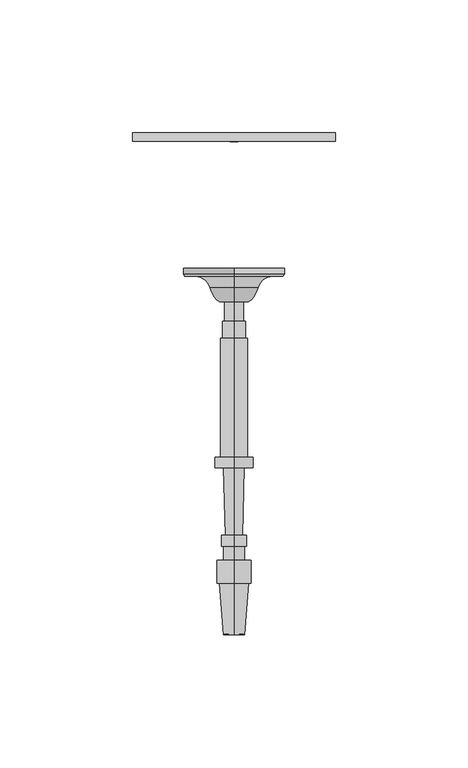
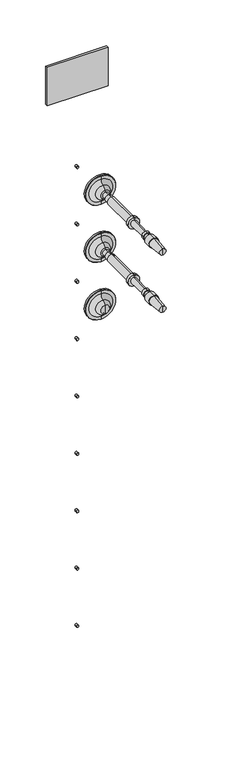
"""IFC4 building model written with IfcOpenShell, lengths in millimetres: railing geometry, RAILEASY CABLE RAILING CORNER TENSIONERS STAIR."""

from ifc_helpers import new_model, si_unit, point, frame, frame_2d, origin, place, context, project, spatial, polyline, circle_curve, ellipse_curve, trimmed, segment, composite_curve, outline, extrude, source, transform, mapped, element, save
from ifc_brep_helpers import plane_surface, cylinder_surface, revolved_surface, advanced_brep


def railing_03ae49d9(model_context):
    return source(origin(), model_context, "Body", "SolidModel", [
        extrude(outline(polyline([(4059.3568095, 20314.624604), (4135.5568095, 20314.624604), (4135.5568095, 20311.449604), (4059.3568095, 20311.449604), (4059.3568095, 20314.624604)])), frame((0.0, 0.0, 33390.9789063), z_axis=(0.0, 0.0, 1.0), x_axis=(1.0, 0.0, 0.0)), (0.0, 0.0, 1.0), 50.8),
        extrude(outline(composite_curve([segment(trimmed(circle_curve(frame_2d((33295.7289062, 4097.4568095)), 1.5379197), [point((33295.7289062, 4098.9947293))], [point((33295.7289062, 4095.9188898))], False, "CARTESIAN"), True, "CONTINUOUS"), segment(trimmed(circle_curve(frame_2d((33295.7289062, 4097.4568095)), 1.5379197), [point((33295.7289062, 4095.9188898))], [point((33295.7289062, 4098.9947293))], False, "CARTESIAN"), True, "CONTINUOUS")], self_intersect=False)), frame((0.0, 20311.449604, 0.0), z_axis=(0.0, 1.0, 0.0), x_axis=(0.0, 0.0, 1.0)), (0.0, 0.0, 1.0), 3.175),
        extrude(outline(composite_curve([segment(trimmed(circle_curve(frame_2d((33219.5289063, 4097.4568095)), 1.5379197), [point((33219.5289063, 4098.9947293))], [point((33219.5289063, 4095.9188898))], False, "CARTESIAN"), True, "CONTINUOUS"), segment(trimmed(circle_curve(frame_2d((33219.5289063, 4097.4568095)), 1.5379197), [point((33219.5289063, 4095.9188898))], [point((33219.5289063, 4098.9947293))], False, "CARTESIAN"), True, "CONTINUOUS")], self_intersect=False)), frame((0.0, 20311.449604, 0.0), z_axis=(0.0, 1.0, 0.0), x_axis=(0.0, 0.0, 1.0)), (0.0, 0.0, 1.0), 3.175),
        extrude(outline(composite_curve([segment(trimmed(circle_curve(frame_2d((33143.3289062, 4097.4568095)), 1.5379197), [point((33143.3289062, 4098.9947293))], [point((33143.3289062, 4095.9188898))], False, "CARTESIAN"), True, "CONTINUOUS"), segment(trimmed(circle_curve(frame_2d((33143.3289062, 4097.4568095)), 1.5379197), [point((33143.3289062, 4095.9188898))], [point((33143.3289062, 4098.9947293))], False, "CARTESIAN"), True, "CONTINUOUS")], self_intersect=False)), frame((0.0, 20311.449604, 0.0), z_axis=(0.0, 1.0, 0.0), x_axis=(0.0, 0.0, 1.0)), (0.0, 0.0, 1.0), 3.175),
        extrude(outline(composite_curve([segment(trimmed(circle_curve(frame_2d((33067.1289062, 4097.4568095)), 1.5379197), [point((33067.1289062, 4098.9947293))], [point((33067.1289062, 4095.9188898))], False, "CARTESIAN"), True, "CONTINUOUS"), segment(trimmed(circle_curve(frame_2d((33067.1289062, 4097.4568095)), 1.5379197), [point((33067.1289062, 4095.9188898))], [point((33067.1289062, 4098.9947293))], False, "CARTESIAN"), True, "CONTINUOUS")], self_intersect=False)), frame((0.0, 20311.449604, 0.0), z_axis=(0.0, 1.0, 0.0), x_axis=(0.0, 0.0, 1.0)), (0.0, 0.0, 1.0), 3.175),
        extrude(outline(composite_curve([segment(trimmed(circle_curve(frame_2d((32990.9289062, 4097.4568095)), 1.5379197), [point((32990.9289062, 4098.9947293))], [point((32990.9289062, 4095.9188898))], False, "CARTESIAN"), True, "CONTINUOUS"), segment(trimmed(circle_curve(frame_2d((32990.9289062, 4097.4568095)), 1.5379197), [point((32990.9289062, 4095.9188898))], [point((32990.9289062, 4098.9947293))], False, "CARTESIAN"), True, "CONTINUOUS")], self_intersect=False)), frame((0.0, 20311.449604, 0.0), z_axis=(0.0, 1.0, 0.0), x_axis=(0.0, 0.0, 1.0)), (0.0, 0.0, 1.0), 3.175),
        extrude(outline(composite_curve([segment(trimmed(circle_curve(frame_2d((32914.7289062, 4097.4568095)), 1.5379197), [point((32914.7289062, 4098.9947293))], [point((32914.7289062, 4095.9188898))], False, "CARTESIAN"), True, "CONTINUOUS"), segment(trimmed(circle_curve(frame_2d((32914.7289062, 4097.4568095)), 1.5379197), [point((32914.7289062, 4095.9188898))], [point((32914.7289062, 4098.9947293))], False, "CARTESIAN"), True, "CONTINUOUS")], self_intersect=False)), frame((0.0, 20311.449604, 0.0), z_axis=(0.0, 1.0, 0.0), x_axis=(0.0, 0.0, 1.0)), (0.0, 0.0, 1.0), 3.175),
        extrude(outline(composite_curve([segment(trimmed(circle_curve(frame_2d((32838.5289063, 4097.4568095)), 1.5379197), [point((32838.5289063, 4098.9947293))], [point((32838.5289063, 4095.9188898))], False, "CARTESIAN"), True, "CONTINUOUS"), segment(trimmed(circle_curve(frame_2d((32838.5289063, 4097.4568095)), 1.5379197), [point((32838.5289063, 4095.9188898))], [point((32838.5289063, 4098.9947293))], False, "CARTESIAN"), True, "CONTINUOUS")], self_intersect=False)), frame((0.0, 20311.449604, 0.0), z_axis=(0.0, 1.0, 0.0), x_axis=(0.0, 0.0, 1.0)), (0.0, 0.0, 1.0), 3.175),
        extrude(outline(composite_curve([segment(trimmed(circle_curve(frame_2d((32762.3289062, 4097.4568095)), 1.5379197), [point((32762.3289062, 4098.9947293))], [point((32762.3289062, 4095.9188898))], False, "CARTESIAN"), True, "CONTINUOUS"), segment(trimmed(circle_curve(frame_2d((32762.3289062, 4097.4568095)), 1.5379197), [point((32762.3289062, 4095.9188898))], [point((32762.3289062, 4098.9947293))], False, "CARTESIAN"), True, "CONTINUOUS")], self_intersect=False)), frame((0.0, 20311.449604, 0.0), z_axis=(0.0, 1.0, 0.0), x_axis=(0.0, 0.0, 1.0)), (0.0, 0.0, 1.0), 3.175),
        extrude(outline(composite_curve([segment(trimmed(circle_curve(frame_2d((32686.1289062, 4097.4568095)), 1.5379197), [point((32686.1289062, 4098.9947293))], [point((32686.1289062, 4095.9188898))], False, "CARTESIAN"), True, "CONTINUOUS"), segment(trimmed(circle_curve(frame_2d((32686.1289062, 4097.4568095)), 1.5379197), [point((32686.1289062, 4095.9188898))], [point((32686.1289062, 4098.9947293))], False, "CARTESIAN"), True, "CONTINUOUS")], self_intersect=False)), frame((0.0, 20311.449604, 0.0), z_axis=(0.0, 1.0, 0.0), x_axis=(0.0, 0.0, 1.0)), (0.0, 0.0, 1.0), 3.175),
        advanced_brep(
        [(4097.4568095, 20263.8073048, 33296.0001631), (4097.4568095, 20263.8073048, 33276.9501631), (4097.4568095, 20263.8073048, 33315.0501631), (4097.4568095, 20251.1146682, 33290.4769785), (4097.4568095, 20251.1146682, 33296.0001631), (4097.4568095, 20251.1146682, 33301.5233478), (4097.4568095, 20256.3907646, 33286.8720381), (4097.4568095, 20256.3907646, 33305.1282881), (4097.4568095, 20260.7563896, 33281.2458254), (4097.4568095, 20260.7563896, 33310.7545009), (4097.4568095, 20260.7563896, 33277.3762941), (4097.4568095, 20260.7563896, 33314.6240321), (4097.4568095, 20261.4260548, 33276.9501631), (4097.4568095, 20261.4260548, 33315.0501631)],
        [
            (0, 1),
            (1, 2, circle_curve(frame((4097.4568095, 20263.8073048, 33296.0001631), z_axis=(0.0, 1.0, 0.0), x_axis=(0.0, 0.0, 1.0)), 19.05)),
            (2, 0),
            (2, 1, circle_curve(frame((4097.4568095, 20263.8073048, 33296.0001631), z_axis=(0.0, 1.0, 0.0), x_axis=(0.0, 0.0, 1.0)), 19.05)),
            (3, 4),
            (4, 5),
            (5, 3, circle_curve(frame((4097.4568095, 20251.1146682, 33296.0001631), z_axis=(0.0, -1.0, 0.0), x_axis=(0.0, 0.0, 1.0)), 5.5231846)),
            (3, 5, circle_curve(frame((4097.4568095, 20251.1146682, 33296.0001631), z_axis=(0.0, -1.0, 0.0), x_axis=(0.0, 0.0, 1.0)), 5.5231846)),
            (6, 3, circle_curve(frame((4097.4568095, 20258.7151733, 33295.9374304), z_axis=(-1.0, 0.0, 0.0), x_axis=(0.0, -1.0, 0.0)), 9.3586438)),
            (5, 7, circle_curve(frame((4097.4568095, 20258.7151733, 33296.0628958), z_axis=(-1.0, 0.0, 0.0), x_axis=(0.0, -1.0, 0.0)), 9.3586438)),
            (7, 6, circle_curve(frame((4097.4568095, 20256.3907646, 33296.0001631), z_axis=(0.0, -1.0, 0.0), x_axis=(0.0, 0.0, 1.0)), 9.128125)),
            (6, 7, circle_curve(frame((4097.4568095, 20256.3907646, 33296.0001631), z_axis=(0.0, -1.0, 0.0), x_axis=(0.0, 0.0, 1.0)), 9.128125)),
            (8, 6, circle_curve(frame((4097.4568095, 20254.9481776, 33281.2458254), z_axis=(1.0, 0.0, 0.0), x_axis=(0.0, -1.0, 0.0)), 5.8082121)),
            (7, 9, circle_curve(frame((4097.4568095, 20254.9481776, 33310.7545009), z_axis=(1.0, 0.0, 0.0), x_axis=(0.0, -1.0, 0.0)), 5.8082121)),
            (9, 8, circle_curve(frame((4097.4568095, 20260.7563896, 33296.0001631), z_axis=(0.0, -1.0, 0.0), x_axis=(0.0, 0.0, 1.0)), 14.7543378)),
            (8, 9, circle_curve(frame((4097.4568095, 20260.7563896, 33296.0001631), z_axis=(0.0, -1.0, 0.0), x_axis=(0.0, 0.0, 1.0)), 14.7543378)),
            (10, 8),
            (9, 11),
            (11, 10, circle_curve(frame((4097.4568095, 20260.7563896, 33296.0001631), z_axis=(0.0, -1.0, 0.0), x_axis=(0.0, 0.0, 1.0)), 18.623869)),
            (10, 11, circle_curve(frame((4097.4568095, 20260.7563896, 33296.0001631), z_axis=(0.0, -1.0, 0.0), x_axis=(0.0, 0.0, 1.0)), 18.623869)),
            (12, 10),
            (11, 13),
            (13, 12, circle_curve(frame((4097.4568095, 20261.4260548, 33296.0001631), z_axis=(0.0, -1.0, 0.0), x_axis=(0.0, 0.0, 1.0)), 19.05)),
            (12, 13, circle_curve(frame((4097.4568095, 20261.4260548, 33296.0001631), z_axis=(0.0, -1.0, 0.0), x_axis=(0.0, 0.0, 1.0)), 19.05)),
            (1, 12),
            (13, 2),
        ],
        [
            plane_surface(frame((4097.4568095, 20263.8073048, 33296.0001631), z_axis=(0.0, 1.0, 0.0), x_axis=(0.0, 0.0, 1.0))),
            plane_surface(frame((4097.4568095, 20251.1146682, 33296.0001631), z_axis=(0.0, -1.0, 0.0), x_axis=(0.0, 0.0, 1.0))),
            revolved_surface(trimmed(ellipse_curve(frame((4097.4568095, 20258.7151733, 33296.0628958), z_axis=(-1.0, 0.0, 0.0), x_axis=(0.0, -1.0, 0.0)), 9.3586438, 9.3586438), [point((4097.4568095, 20251.1146682, 33301.5233478))], [point((4097.4568095, 20256.3907646, 33305.1282881))], True, "CARTESIAN"), (4097.4568095, 20263.8073048, 33296.0001631), (0.0, 1.0, 0.0)),
            revolved_surface(trimmed(ellipse_curve(frame((4097.4568095, 20254.9481776, 33310.7545009), z_axis=(1.0, 0.0, 0.0), x_axis=(0.0, -1.0, 0.0)), 5.8082121, 5.8082121), [point((4097.4568095, 20256.3907646, 33305.1282881))], [point((4097.4568095, 20260.7563896, 33310.7545009))], True, "CARTESIAN"), (4097.4568095, 20263.8073048, 33296.0001631), (0.0, 1.0, 0.0)),
            plane_surface(frame((4097.4568095, 20260.7563896, 33296.0001631), z_axis=(0.0, -1.0, 0.0), x_axis=(0.0, 0.0, 1.0))),
            revolved_surface(polyline([(4097.4568095, 20260.7563896, 33314.6240321), (4097.4568095, 20261.4260548, 33315.0501631)]), (4097.4568095, 20263.8073048, 33296.0001631), (0.0, 1.0, 0.0)),
            cylinder_surface(frame((4097.4568095, 20263.8073048, 33296.0001631), z_axis=(0.0, 1.0, 0.0), x_axis=(0.0, 0.0, 1.0)), 19.05),
        ],
        [
            (0, [[1, 2, 3]]),
            (0, [[-3, 4, -1]]),
            (1, [[5, 6, 7]]),
            (1, [[-6, -5, 8]]),
            (2, [[9, -7, 10, 11]]),
            (2, [[-10, -8, -9, 12]]),
            (3, [[13, -11, 14, 15]]),
            (3, [[-14, -12, -13, 16]]),
            (4, [[17, -15, 18, 19]]),
            (4, [[-18, -16, -17, 20]]),
            (5, [[21, -19, 22, 23]]),
            (5, [[-22, -20, -21, 24]]),
            (6, [[25, -23, 26, -2]]),
            (6, [[-26, -24, -25, -4]]),
        ],
    ),
        advanced_brep(
        [(4097.4568095, 20251.1146682, 33292.4282881), (4097.4568095, 20251.1146682, 33299.5720381), (4097.4568095, 20251.1146682, 33296.0001631), (4097.4568095, 20126.170779, 33296.0001631), (4097.4568095, 20125.8751146, 33300.0246235), (4097.4568095, 20125.8751146, 33291.9757028), (4097.4568095, 20145.2184786, 33301.445719), (4097.4568095, 20145.2184786, 33290.5546072), (4097.4568095, 20145.2184786, 33302.3386877), (4097.4568095, 20145.2184786, 33289.6616385), (4097.4568095, 20153.8505098, 33302.3386877), (4097.4568095, 20153.8505098, 33289.6616385), (4097.4568095, 20153.8505098, 33299.9574377), (4097.4568095, 20153.8505098, 33292.0428885), (4097.4568095, 20159.2083223, 33299.9574377), (4097.4568095, 20159.2083223, 33292.0428885), (4097.4568095, 20159.2083223, 33300.7511877), (4097.4568095, 20159.2083223, 33291.2491385), (4097.4568095, 20163.2762911, 33300.7511877), (4097.4568095, 20163.2762911, 33291.2491385), (4097.4568095, 20163.3203782, 33299.1643), (4097.4568095, 20163.3203782, 33292.8360262), (4097.4568095, 20188.7105814, 33299.8696944), (4097.4568095, 20188.7105814, 33292.1306319), (4097.4568095, 20188.7105814, 33303.1439131), (4097.4568095, 20188.7105814, 33288.8564131), (4097.4568095, 20192.6793314, 33303.1439131), (4097.4568095, 20192.6793314, 33288.8564131), (4097.4568095, 20192.6793314, 33301.1595381), (4097.4568095, 20192.6793314, 33290.8407881), (4097.4568095, 20237.4269877, 33301.1595381), (4097.4568095, 20237.4269877, 33290.8407881), (4097.4568095, 20237.4269877, 33300.3657881), (4097.4568095, 20237.4269877, 33291.6345381), (4097.4568095, 20243.7769877, 33300.3657881), (4097.4568095, 20243.7769877, 33291.6345381), (4097.4568095, 20243.7769877, 33299.5720381), (4097.4568095, 20243.7769877, 33292.4282881)],
        [
            (0, 1, circle_curve(frame((4097.4568095, 20251.1146682, 33296.0001631), z_axis=(0.0, 1.0, 0.0), x_axis=(0.0, 0.0, 1.0000000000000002)), 3.571875)),
            (1, 2),
            (2, 0),
            (1, 0, circle_curve(frame((4097.4568095, 20251.1146682, 33296.0001631), z_axis=(0.0, 1.0, 0.0), x_axis=(0.0, 0.0, 1.0000000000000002)), 3.571875)),
            (3, 4),
            (4, 5, circle_curve(frame((4097.4568095, 20125.8751146, 33296.0001631), z_axis=(0.0, -1.0, 0.0), x_axis=(0.0, 0.0, 1.0000000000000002)), 4.0244604)),
            (5, 3),
            (5, 4, circle_curve(frame((4097.4568095, 20125.8751146, 33296.0001631), z_axis=(0.0, -1.0, 0.0), x_axis=(0.0, 0.0, 1.0000000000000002)), 4.0244604)),
            (4, 6),
            (6, 7, circle_curve(frame((4097.4568095, 20145.2184786, 33296.0001631), z_axis=(0.0, -1.0, 0.0), x_axis=(0.0, 0.0, 1.0000000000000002)), 5.4455559)),
            (7, 5),
            (7, 6, circle_curve(frame((4097.4568095, 20145.2184786, 33296.0001631), z_axis=(0.0, -1.0, 0.0), x_axis=(0.0, 0.0, 1.0000000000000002)), 5.4455559)),
            (6, 8),
            (8, 9, circle_curve(frame((4097.4568095, 20145.2184786, 33296.0001631), z_axis=(0.0, -1.0, 0.0), x_axis=(0.0, 0.0, 1.0000000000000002)), 6.3385246)),
            (9, 7),
            (9, 8, circle_curve(frame((4097.4568095, 20145.2184786, 33296.0001631), z_axis=(0.0, -1.0, 0.0), x_axis=(0.0, 0.0, 1.0000000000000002)), 6.3385246)),
            (8, 10),
            (10, 11, circle_curve(frame((4097.4568095, 20153.8505098, 33296.0001631), z_axis=(0.0, -1.0, 0.0), x_axis=(0.0, 0.0, 1.0000000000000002)), 6.3385246)),
            (11, 9),
            (11, 10, circle_curve(frame((4097.4568095, 20153.8505098, 33296.0001631), z_axis=(0.0, -1.0, 0.0), x_axis=(0.0, 0.0, 1.0000000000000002)), 6.3385246)),
            (10, 12),
            (12, 13, circle_curve(frame((4097.4568095, 20153.8505098, 33296.0001631), z_axis=(0.0, -1.0, 0.0), x_axis=(0.0, 0.0, 1.0000000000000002)), 3.9572746)),
            (13, 11),
            (13, 12, circle_curve(frame((4097.4568095, 20153.8505098, 33296.0001631), z_axis=(0.0, -1.0, 0.0), x_axis=(0.0, 0.0, 1.0000000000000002)), 3.9572746)),
            (12, 14),
            (14, 15, circle_curve(frame((4097.4568095, 20159.2083223, 33296.0001631), z_axis=(0.0, -1.0, 0.0), x_axis=(0.0, 0.0, 1.0000000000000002)), 3.9572746)),
            (15, 13),
            (15, 14, circle_curve(frame((4097.4568095, 20159.2083223, 33296.0001631), z_axis=(0.0, -1.0, 0.0), x_axis=(0.0, 0.0, 1.0000000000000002)), 3.9572746)),
            (14, 16),
            (16, 17, circle_curve(frame((4097.4568095, 20159.2083223, 33296.0001631), z_axis=(0.0, -1.0, 0.0), x_axis=(0.0, 0.0, 1.0000000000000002)), 4.7510246)),
            (17, 15),
            (17, 16, circle_curve(frame((4097.4568095, 20159.2083223, 33296.0001631), z_axis=(0.0, -1.0, 0.0), x_axis=(0.0, 0.0, 1.0000000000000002)), 4.7510246)),
            (16, 18),
            (18, 19, circle_curve(frame((4097.4568095, 20163.2762911, 33296.0001631), z_axis=(0.0, -1.0, 0.0), x_axis=(0.0, 0.0, 1.0000000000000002)), 4.7510246)),
            (19, 17),
            (19, 18, circle_curve(frame((4097.4568095, 20163.2762911, 33296.0001631), z_axis=(0.0, -1.0, 0.0), x_axis=(0.0, 0.0, 1.0000000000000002)), 4.7510246)),
            (18, 20),
            (20, 21, circle_curve(frame((4097.4568095, 20163.3203782, 33296.0001631), z_axis=(0.0, -1.0, 0.0), x_axis=(0.0, 0.0, 1.0000000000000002)), 3.1641369)),
            (21, 19),
            (21, 20, circle_curve(frame((4097.4568095, 20163.3203782, 33296.0001631), z_axis=(0.0, -1.0, 0.0), x_axis=(0.0, 0.0, 1.0000000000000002)), 3.1641369)),
            (20, 22),
            (22, 23, circle_curve(frame((4097.4568095, 20188.7105814, 33296.0001631), z_axis=(0.0, -1.0, 0.0), x_axis=(0.0, 0.0, 1.0000000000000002)), 3.8695313)),
            (23, 21),
            (23, 22, circle_curve(frame((4097.4568095, 20188.7105814, 33296.0001631), z_axis=(0.0, -1.0, 0.0), x_axis=(0.0, 0.0, 1.0000000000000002)), 3.8695313)),
            (22, 24),
            (24, 25, circle_curve(frame((4097.4568095, 20188.7105814, 33296.0001631), z_axis=(0.0, -1.0, 0.0), x_axis=(0.0, 0.0, 1.0000000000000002)), 7.14375)),
            (25, 23),
            (25, 24, circle_curve(frame((4097.4568095, 20188.7105814, 33296.0001631), z_axis=(0.0, -1.0, 0.0), x_axis=(0.0, 0.0, 1.0000000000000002)), 7.14375)),
            (24, 26),
            (26, 27, circle_curve(frame((4097.4568095, 20192.6793314, 33296.0001631), z_axis=(0.0, -1.0, 0.0), x_axis=(0.0, 0.0, 1.0000000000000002)), 7.14375)),
            (27, 25),
            (27, 26, circle_curve(frame((4097.4568095, 20192.6793314, 33296.0001631), z_axis=(0.0, -1.0, 0.0), x_axis=(0.0, 0.0, 1.0000000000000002)), 7.14375)),
            (26, 28),
            (28, 29, circle_curve(frame((4097.4568095, 20192.6793314, 33296.0001631), z_axis=(0.0, -1.0, 0.0), x_axis=(0.0, 0.0, 1.0000000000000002)), 5.159375)),
            (29, 27),
            (29, 28, circle_curve(frame((4097.4568095, 20192.6793314, 33296.0001631), z_axis=(0.0, -1.0, 0.0), x_axis=(0.0, 0.0, 1.0000000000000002)), 5.159375)),
            (28, 30),
            (30, 31, circle_curve(frame((4097.4568095, 20237.4269877, 33296.0001631), z_axis=(0.0, -1.0, 0.0), x_axis=(0.0, 0.0, 1.0000000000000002)), 5.159375)),
            (31, 29),
            (31, 30, circle_curve(frame((4097.4568095, 20237.4269877, 33296.0001631), z_axis=(0.0, -1.0, 0.0), x_axis=(0.0, 0.0, 1.0000000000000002)), 5.159375)),
            (30, 32),
            (32, 33, circle_curve(frame((4097.4568095, 20237.4269877, 33296.0001631), z_axis=(0.0, -1.0, 0.0), x_axis=(0.0, 0.0, 1.0000000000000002)), 4.365625)),
            (33, 31),
            (33, 32, circle_curve(frame((4097.4568095, 20237.4269877, 33296.0001631), z_axis=(0.0, -1.0, 0.0), x_axis=(0.0, 0.0, 1.0000000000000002)), 4.365625)),
            (32, 34),
            (34, 35, circle_curve(frame((4097.4568095, 20243.7769877, 33296.0001631), z_axis=(0.0, -1.0, 0.0), x_axis=(0.0, 0.0, 1.0000000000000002)), 4.365625)),
            (35, 33),
            (35, 34, circle_curve(frame((4097.4568095, 20243.7769877, 33296.0001631), z_axis=(0.0, -1.0, 0.0), x_axis=(0.0, 0.0, 1.0000000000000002)), 4.365625)),
            (34, 36),
            (36, 37, circle_curve(frame((4097.4568095, 20243.7769877, 33296.0001631), z_axis=(0.0, -1.0, 0.0), x_axis=(0.0, 0.0, 1.0000000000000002)), 3.571875)),
            (37, 35),
            (37, 36, circle_curve(frame((4097.4568095, 20243.7769877, 33296.0001631), z_axis=(0.0, -1.0, 0.0), x_axis=(0.0, 0.0, 1.0000000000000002)), 3.571875)),
            (36, 1),
            (0, 37),
        ],
        [
            plane_surface(frame((4097.4568095, 20251.1146682, 33296.0001631), z_axis=(0.0, 1.0, 0.0), x_axis=(0.0, 0.0, 1.0))),
            revolved_surface(polyline([(4097.4568095, 20125.8751146, 33300.0246235), (4097.4568095, 20126.170779, 33296.0001631)]), (4097.4568095, 20126.170779, 33296.0001631), (0.0, -1.0, 0.0)),
            revolved_surface(polyline([(4097.4568095, 20145.2184786, 33301.445719), (4097.4568095, 20125.8751146, 33300.0246235)]), (4097.4568095, 20126.170779, 33296.0001631), (0.0, -1.0, 0.0)),
            plane_surface(frame((4097.4568095, 20145.2184786, 33296.0001631), z_axis=(0.0, -1.0, 0.0), x_axis=(0.0, 0.0, 1.0))),
            cylinder_surface(frame((4097.4568095, 20126.170779, 33296.0001631), z_axis=(0.0, -1.0, 0.0), x_axis=(0.0, 0.0, 1.0000000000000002)), 6.3385246),
            plane_surface(frame((4097.4568095, 20153.8505098, 33296.0001631), z_axis=(0.0, 1.0, 0.0), x_axis=(0.0, 0.0, 1.0))),
            cylinder_surface(frame((4097.4568095, 20126.170779, 33296.0001631), z_axis=(0.0, -1.0, 0.0), x_axis=(0.0, 0.0, 1.0000000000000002)), 3.9572746),
            plane_surface(frame((4097.4568095, 20159.2083223, 33296.0001631), z_axis=(0.0, -1.0, 0.0), x_axis=(0.0, 0.0, 1.0))),
            cylinder_surface(frame((4097.4568095, 20126.170779, 33296.0001631), z_axis=(0.0, -1.0, 0.0), x_axis=(0.0, 0.0, 1.0000000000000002)), 4.7510246),
            plane_surface(frame((4097.4568095, 20163.3203782, 33296.0001631), z_axis=(0.0, 1.0, 0.0), x_axis=(0.0, 0.0, 1.0))),
            revolved_surface(polyline([(4097.4568095, 20188.7105814, 33299.8696944), (4097.4568095, 20163.3203782, 33299.1643)]), (4097.4568095, 20126.170779, 33296.0001631), (0.0, -1.0, 0.0)),
            plane_surface(frame((4097.4568095, 20188.7105814, 33296.0001631), z_axis=(0.0, -1.0, 0.0), x_axis=(0.0, 0.0, 1.0))),
            cylinder_surface(frame((4097.4568095, 20126.170779, 33296.0001631), z_axis=(0.0, -1.0, 0.0), x_axis=(0.0, 0.0, 1.0000000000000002)), 7.14375),
            plane_surface(frame((4097.4568095, 20192.6793314, 33296.0001631), z_axis=(0.0, 1.0, 0.0), x_axis=(0.0, 0.0, 1.0))),
            cylinder_surface(frame((4097.4568095, 20126.170779, 33296.0001631), z_axis=(0.0, -1.0, 0.0), x_axis=(0.0, 0.0, 1.0000000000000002)), 5.159375),
            plane_surface(frame((4097.4568095, 20237.4269877, 33296.0001631), z_axis=(0.0, 1.0, 0.0), x_axis=(0.0, 0.0, 1.0))),
            cylinder_surface(frame((4097.4568095, 20126.170779, 33296.0001631), z_axis=(0.0, -1.0, 0.0), x_axis=(0.0, 0.0, 1.0000000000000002)), 4.365625),
            plane_surface(frame((4097.4568095, 20243.7769877, 33296.0001631), z_axis=(0.0, 1.0, 0.0), x_axis=(0.0, 0.0, 1.0))),
            cylinder_surface(frame((4097.4568095, 20126.170779, 33296.0001631), z_axis=(0.0, -1.0, 0.0), x_axis=(0.0, 0.0, 1.0000000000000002)), 3.571875),
        ],
        [
            (0, [[1, 2, 3]]),
            (0, [[4, -3, -2]]),
            (1, [[5, 6, 7]]),
            (1, [[-7, 8, -5]]),
            (2, [[-6, 9, 10, 11]]),
            (2, [[-8, -11, 12, -9]]),
            (3, [[-10, 13, 14, 15]]),
            (3, [[-12, -15, 16, -13]]),
            (4, [[-14, 17, 18, 19]]),
            (4, [[-16, -19, 20, -17]]),
            (5, [[-18, 21, 22, 23]]),
            (5, [[-20, -23, 24, -21]]),
            (6, [[-22, 25, 26, 27]]),
            (6, [[-24, -27, 28, -25]]),
            (7, [[-26, 29, 30, 31]]),
            (7, [[-28, -31, 32, -29]]),
            (8, [[-30, 33, 34, 35]]),
            (8, [[-32, -35, 36, -33]]),
            (9, [[-34, 37, 38, 39]]),
            (9, [[-36, -39, 40, -37]]),
            (10, [[-38, 41, 42, 43]]),
            (10, [[-40, -43, 44, -41]]),
            (11, [[-42, 45, 46, 47]]),
            (11, [[-44, -47, 48, -45]]),
            (12, [[-46, 49, 50, 51]]),
            (12, [[-48, -51, 52, -49]]),
            (13, [[-50, 53, 54, 55]]),
            (13, [[-52, -55, 56, -53]]),
            (14, [[-54, 57, 58, 59]]),
            (14, [[-56, -59, 60, -57]]),
            (15, [[-58, 61, 62, 63]]),
            (15, [[-60, -63, 64, -61]]),
            (16, [[-62, 65, 66, 67]]),
            (16, [[-64, -67, 68, -65]]),
            (17, [[-66, 69, 70, 71]]),
            (17, [[-68, -71, 72, -69]]),
            (18, [[-70, 73, -1, 74]]),
            (18, [[-72, -74, -4, -73]]),
        ],
    ),
        advanced_brep(
        [(4097.4568095, 20263.8073048, 33219.8001631), (4097.4568095, 20263.8073048, 33200.7501631), (4097.4568095, 20263.8073048, 33238.8501631), (4097.4568095, 20251.1146682, 33214.2769785), (4097.4568095, 20251.1146682, 33219.8001631), (4097.4568095, 20251.1146682, 33225.3233478), (4097.4568095, 20256.3907646, 33210.6720381), (4097.4568095, 20256.3907646, 33228.9282881), (4097.4568095, 20260.7563896, 33205.0458254), (4097.4568095, 20260.7563896, 33234.5545009), (4097.4568095, 20260.7563896, 33201.1762941), (4097.4568095, 20260.7563896, 33238.4240321), (4097.4568095, 20261.4260548, 33200.7501631), (4097.4568095, 20261.4260548, 33238.8501631)],
        [
            (0, 1),
            (1, 2, circle_curve(frame((4097.4568095, 20263.8073048, 33219.8001631), z_axis=(0.0, 1.0, 0.0), x_axis=(0.0, 0.0, 1.0)), 19.05)),
            (2, 0),
            (2, 1, circle_curve(frame((4097.4568095, 20263.8073048, 33219.8001631), z_axis=(0.0, 1.0, 0.0), x_axis=(0.0, 0.0, 1.0)), 19.05)),
            (3, 4),
            (4, 5),
            (5, 3, circle_curve(frame((4097.4568095, 20251.1146682, 33219.8001631), z_axis=(0.0, -1.0, 0.0), x_axis=(0.0, 0.0, 1.0)), 5.5231846)),
            (3, 5, circle_curve(frame((4097.4568095, 20251.1146682, 33219.8001631), z_axis=(0.0, -1.0, 0.0), x_axis=(0.0, 0.0, 1.0)), 5.5231846)),
            (6, 3, circle_curve(frame((4097.4568095, 20258.7151733, 33219.7374304), z_axis=(-1.0, 0.0, 0.0), x_axis=(0.0, -1.0, 0.0)), 9.3586438)),
            (5, 7, circle_curve(frame((4097.4568095, 20258.7151733, 33219.8628958), z_axis=(-1.0, 0.0, 0.0), x_axis=(0.0, -1.0, 0.0)), 9.3586438)),
            (7, 6, circle_curve(frame((4097.4568095, 20256.3907646, 33219.8001631), z_axis=(0.0, -1.0, 0.0), x_axis=(0.0, 0.0, 1.0)), 9.128125)),
            (6, 7, circle_curve(frame((4097.4568095, 20256.3907646, 33219.8001631), z_axis=(0.0, -1.0, 0.0), x_axis=(0.0, 0.0, 1.0)), 9.128125)),
            (8, 6, circle_curve(frame((4097.4568095, 20254.9481776, 33205.0458254), z_axis=(1.0, 0.0, 0.0), x_axis=(0.0, -1.0, 0.0)), 5.8082121)),
            (7, 9, circle_curve(frame((4097.4568095, 20254.9481776, 33234.5545009), z_axis=(1.0, 0.0, 0.0), x_axis=(0.0, -1.0, 0.0)), 5.8082121)),
            (9, 8, circle_curve(frame((4097.4568095, 20260.7563896, 33219.8001631), z_axis=(0.0, -1.0, 0.0), x_axis=(0.0, 0.0, 1.0)), 14.7543378)),
            (8, 9, circle_curve(frame((4097.4568095, 20260.7563896, 33219.8001631), z_axis=(0.0, -1.0, 0.0), x_axis=(0.0, 0.0, 1.0)), 14.7543378)),
            (10, 8),
            (9, 11),
            (11, 10, circle_curve(frame((4097.4568095, 20260.7563896, 33219.8001631), z_axis=(0.0, -1.0, 0.0), x_axis=(0.0, 0.0, 1.0)), 18.623869)),
            (10, 11, circle_curve(frame((4097.4568095, 20260.7563896, 33219.8001631), z_axis=(0.0, -1.0, 0.0), x_axis=(0.0, 0.0, 1.0)), 18.623869)),
            (12, 10),
            (11, 13),
            (13, 12, circle_curve(frame((4097.4568095, 20261.4260548, 33219.8001631), z_axis=(0.0, -1.0, 0.0), x_axis=(0.0, 0.0, 1.0)), 19.05)),
            (12, 13, circle_curve(frame((4097.4568095, 20261.4260548, 33219.8001631), z_axis=(0.0, -1.0, 0.0), x_axis=(0.0, 0.0, 1.0)), 19.05)),
            (1, 12),
            (13, 2),
        ],
        [
            plane_surface(frame((4097.4568095, 20263.8073048, 33219.8001631), z_axis=(0.0, 1.0, 0.0), x_axis=(0.0, 0.0, 1.0))),
            plane_surface(frame((4097.4568095, 20251.1146682, 33219.8001631), z_axis=(0.0, -1.0, 0.0), x_axis=(0.0, 0.0, 1.0))),
            revolved_surface(trimmed(ellipse_curve(frame((4097.4568095, 20258.7151733, 33219.8628958), z_axis=(-1.0, 0.0, 0.0), x_axis=(0.0, -1.0, 0.0)), 9.3586438, 9.3586438), [point((4097.4568095, 20251.1146682, 33225.3233478))], [point((4097.4568095, 20256.3907646, 33228.9282881))], True, "CARTESIAN"), (4097.4568095, 20263.8073048, 33219.8001631), (0.0, 1.0, 0.0)),
            revolved_surface(trimmed(ellipse_curve(frame((4097.4568095, 20254.9481776, 33234.5545009), z_axis=(1.0, 0.0, 0.0), x_axis=(0.0, -1.0, 0.0)), 5.8082121, 5.8082121), [point((4097.4568095, 20256.3907646, 33228.9282881))], [point((4097.4568095, 20260.7563896, 33234.5545009))], True, "CARTESIAN"), (4097.4568095, 20263.8073048, 33219.8001631), (0.0, 1.0, 0.0)),
            plane_surface(frame((4097.4568095, 20260.7563896, 33219.8001631), z_axis=(0.0, -1.0, 0.0), x_axis=(0.0, 0.0, 1.0))),
            revolved_surface(polyline([(4097.4568095, 20260.7563896, 33238.4240321), (4097.4568095, 20261.4260548, 33238.8501631)]), (4097.4568095, 20263.8073048, 33219.8001631), (0.0, 1.0, 0.0)),
            cylinder_surface(frame((4097.4568095, 20263.8073048, 33219.8001631), z_axis=(0.0, 1.0, 0.0), x_axis=(0.0, 0.0, 1.0)), 19.05),
        ],
        [
            (0, [[1, 2, 3]]),
            (0, [[-3, 4, -1]]),
            (1, [[5, 6, 7]]),
            (1, [[-6, -5, 8]]),
            (2, [[9, -7, 10, 11]]),
            (2, [[-10, -8, -9, 12]]),
            (3, [[13, -11, 14, 15]]),
            (3, [[-14, -12, -13, 16]]),
            (4, [[17, -15, 18, 19]]),
            (4, [[-18, -16, -17, 20]]),
            (5, [[21, -19, 22, 23]]),
            (5, [[-22, -20, -21, 24]]),
            (6, [[25, -23, 26, -2]]),
            (6, [[-26, -24, -25, -4]]),
        ],
    ),
        advanced_brep(
        [(4097.4568095, 20251.1146682, 33216.2282881), (4097.4568095, 20251.1146682, 33223.3720381), (4097.4568095, 20251.1146682, 33219.8001631), (4097.4568095, 20126.170779, 33219.8001631), (4097.4568095, 20125.8751146, 33223.8246235), (4097.4568095, 20125.8751146, 33215.7757028), (4097.4568095, 20145.2184786, 33225.245719), (4097.4568095, 20145.2184786, 33214.3546072), (4097.4568095, 20145.2184786, 33226.1386877), (4097.4568095, 20145.2184786, 33213.4616385), (4097.4568095, 20153.8505098, 33226.1386877), (4097.4568095, 20153.8505098, 33213.4616385), (4097.4568095, 20153.8505098, 33223.7574377), (4097.4568095, 20153.8505098, 33215.8428885), (4097.4568095, 20159.2083223, 33223.7574377), (4097.4568095, 20159.2083223, 33215.8428885), (4097.4568095, 20159.2083223, 33224.5511877), (4097.4568095, 20159.2083223, 33215.0491385), (4097.4568095, 20163.2762911, 33224.5511877), (4097.4568095, 20163.2762911, 33215.0491385), (4097.4568095, 20163.3203782, 33222.9643), (4097.4568095, 20163.3203782, 33216.6360262), (4097.4568095, 20188.7105814, 33223.6696944), (4097.4568095, 20188.7105814, 33215.9306319), (4097.4568095, 20188.7105814, 33226.9439131), (4097.4568095, 20188.7105814, 33212.6564131), (4097.4568095, 20192.6793314, 33226.9439131), (4097.4568095, 20192.6793314, 33212.6564131), (4097.4568095, 20192.6793314, 33224.9595381), (4097.4568095, 20192.6793314, 33214.6407881), (4097.4568095, 20237.4269877, 33224.9595381), (4097.4568095, 20237.4269877, 33214.6407881), (4097.4568095, 20237.4269877, 33224.1657881), (4097.4568095, 20237.4269877, 33215.4345381), (4097.4568095, 20243.7769877, 33224.1657881), (4097.4568095, 20243.7769877, 33215.4345381), (4097.4568095, 20243.7769877, 33223.3720381), (4097.4568095, 20243.7769877, 33216.2282881)],
        [
            (0, 1, circle_curve(frame((4097.4568095, 20251.1146682, 33219.8001631), z_axis=(0.0, 1.0, 0.0), x_axis=(0.0, 0.0, 1.0000000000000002)), 3.571875)),
            (1, 2),
            (2, 0),
            (1, 0, circle_curve(frame((4097.4568095, 20251.1146682, 33219.8001631), z_axis=(0.0, 1.0, 0.0), x_axis=(0.0, 0.0, 1.0000000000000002)), 3.571875)),
            (3, 4),
            (4, 5, circle_curve(frame((4097.4568095, 20125.8751146, 33219.8001631), z_axis=(0.0, -1.0, 0.0), x_axis=(0.0, 0.0, 1.0000000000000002)), 4.0244604)),
            (5, 3),
            (5, 4, circle_curve(frame((4097.4568095, 20125.8751146, 33219.8001631), z_axis=(0.0, -1.0, 0.0), x_axis=(0.0, 0.0, 1.0000000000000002)), 4.0244604)),
            (4, 6),
            (6, 7, circle_curve(frame((4097.4568095, 20145.2184786, 33219.8001631), z_axis=(0.0, -1.0, 0.0), x_axis=(0.0, 0.0, 1.0000000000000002)), 5.4455559)),
            (7, 5),
            (7, 6, circle_curve(frame((4097.4568095, 20145.2184786, 33219.8001631), z_axis=(0.0, -1.0, 0.0), x_axis=(0.0, 0.0, 1.0000000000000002)), 5.4455559)),
            (6, 8),
            (8, 9, circle_curve(frame((4097.4568095, 20145.2184786, 33219.8001631), z_axis=(0.0, -1.0, 0.0), x_axis=(0.0, 0.0, 1.0000000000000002)), 6.3385246)),
            (9, 7),
            (9, 8, circle_curve(frame((4097.4568095, 20145.2184786, 33219.8001631), z_axis=(0.0, -1.0, 0.0), x_axis=(0.0, 0.0, 1.0000000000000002)), 6.3385246)),
            (8, 10),
            (10, 11, circle_curve(frame((4097.4568095, 20153.8505098, 33219.8001631), z_axis=(0.0, -1.0, 0.0), x_axis=(0.0, 0.0, 1.0000000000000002)), 6.3385246)),
            (11, 9),
            (11, 10, circle_curve(frame((4097.4568095, 20153.8505098, 33219.8001631), z_axis=(0.0, -1.0, 0.0), x_axis=(0.0, 0.0, 1.0000000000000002)), 6.3385246)),
            (10, 12),
            (12, 13, circle_curve(frame((4097.4568095, 20153.8505098, 33219.8001631), z_axis=(0.0, -1.0, 0.0), x_axis=(0.0, 0.0, 1.0000000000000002)), 3.9572746)),
            (13, 11),
            (13, 12, circle_curve(frame((4097.4568095, 20153.8505098, 33219.8001631), z_axis=(0.0, -1.0, 0.0), x_axis=(0.0, 0.0, 1.0000000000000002)), 3.9572746)),
            (12, 14),
            (14, 15, circle_curve(frame((4097.4568095, 20159.2083223, 33219.8001631), z_axis=(0.0, -1.0, 0.0), x_axis=(0.0, 0.0, 1.0000000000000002)), 3.9572746)),
            (15, 13),
            (15, 14, circle_curve(frame((4097.4568095, 20159.2083223, 33219.8001631), z_axis=(0.0, -1.0, 0.0), x_axis=(0.0, 0.0, 1.0000000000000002)), 3.9572746)),
            (14, 16),
            (16, 17, circle_curve(frame((4097.4568095, 20159.2083223, 33219.8001631), z_axis=(0.0, -1.0, 0.0), x_axis=(0.0, 0.0, 1.0000000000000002)), 4.7510246)),
            (17, 15),
            (17, 16, circle_curve(frame((4097.4568095, 20159.2083223, 33219.8001631), z_axis=(0.0, -1.0, 0.0), x_axis=(0.0, 0.0, 1.0000000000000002)), 4.7510246)),
            (16, 18),
            (18, 19, circle_curve(frame((4097.4568095, 20163.2762911, 33219.8001631), z_axis=(0.0, -1.0, 0.0), x_axis=(0.0, 0.0, 1.0000000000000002)), 4.7510246)),
            (19, 17),
            (19, 18, circle_curve(frame((4097.4568095, 20163.2762911, 33219.8001631), z_axis=(0.0, -1.0, 0.0), x_axis=(0.0, 0.0, 1.0000000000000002)), 4.7510246)),
            (18, 20),
            (20, 21, circle_curve(frame((4097.4568095, 20163.3203782, 33219.8001631), z_axis=(0.0, -1.0, 0.0), x_axis=(0.0, 0.0, 1.0000000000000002)), 3.1641369)),
            (21, 19),
            (21, 20, circle_curve(frame((4097.4568095, 20163.3203782, 33219.8001631), z_axis=(0.0, -1.0, 0.0), x_axis=(0.0, 0.0, 1.0000000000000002)), 3.1641369)),
            (20, 22),
            (22, 23, circle_curve(frame((4097.4568095, 20188.7105814, 33219.8001631), z_axis=(0.0, -1.0, 0.0), x_axis=(0.0, 0.0, 1.0000000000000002)), 3.8695313)),
            (23, 21),
            (23, 22, circle_curve(frame((4097.4568095, 20188.7105814, 33219.8001631), z_axis=(0.0, -1.0, 0.0), x_axis=(0.0, 0.0, 1.0000000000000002)), 3.8695313)),
            (22, 24),
            (24, 25, circle_curve(frame((4097.4568095, 20188.7105814, 33219.8001631), z_axis=(0.0, -1.0, 0.0), x_axis=(0.0, 0.0, 1.0000000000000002)), 7.14375)),
            (25, 23),
            (25, 24, circle_curve(frame((4097.4568095, 20188.7105814, 33219.8001631), z_axis=(0.0, -1.0, 0.0), x_axis=(0.0, 0.0, 1.0000000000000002)), 7.14375)),
            (24, 26),
            (26, 27, circle_curve(frame((4097.4568095, 20192.6793314, 33219.8001631), z_axis=(0.0, -1.0, 0.0), x_axis=(0.0, 0.0, 1.0000000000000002)), 7.14375)),
            (27, 25),
            (27, 26, circle_curve(frame((4097.4568095, 20192.6793314, 33219.8001631), z_axis=(0.0, -1.0, 0.0), x_axis=(0.0, 0.0, 1.0000000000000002)), 7.14375)),
            (26, 28),
            (28, 29, circle_curve(frame((4097.4568095, 20192.6793314, 33219.8001631), z_axis=(0.0, -1.0, 0.0), x_axis=(0.0, 0.0, 1.0000000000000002)), 5.159375)),
            (29, 27),
            (29, 28, circle_curve(frame((4097.4568095, 20192.6793314, 33219.8001631), z_axis=(0.0, -1.0, 0.0), x_axis=(0.0, 0.0, 1.0000000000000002)), 5.159375)),
            (28, 30),
            (30, 31, circle_curve(frame((4097.4568095, 20237.4269877, 33219.8001631), z_axis=(0.0, -1.0, 0.0), x_axis=(0.0, 0.0, 1.0000000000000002)), 5.159375)),
            (31, 29),
            (31, 30, circle_curve(frame((4097.4568095, 20237.4269877, 33219.8001631), z_axis=(0.0, -1.0, 0.0), x_axis=(0.0, 0.0, 1.0000000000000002)), 5.159375)),
            (30, 32),
            (32, 33, circle_curve(frame((4097.4568095, 20237.4269877, 33219.8001631), z_axis=(0.0, -1.0, 0.0), x_axis=(0.0, 0.0, 1.0000000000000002)), 4.365625)),
            (33, 31),
            (33, 32, circle_curve(frame((4097.4568095, 20237.4269877, 33219.8001631), z_axis=(0.0, -1.0, 0.0), x_axis=(0.0, 0.0, 1.0000000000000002)), 4.365625)),
            (32, 34),
            (34, 35, circle_curve(frame((4097.4568095, 20243.7769877, 33219.8001631), z_axis=(0.0, -1.0, 0.0), x_axis=(0.0, 0.0, 1.0000000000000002)), 4.365625)),
            (35, 33),
            (35, 34, circle_curve(frame((4097.4568095, 20243.7769877, 33219.8001631), z_axis=(0.0, -1.0, 0.0), x_axis=(0.0, 0.0, 1.0000000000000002)), 4.365625)),
            (34, 36),
            (36, 37, circle_curve(frame((4097.4568095, 20243.7769877, 33219.8001631), z_axis=(0.0, -1.0, 0.0), x_axis=(0.0, 0.0, 1.0000000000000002)), 3.571875)),
            (37, 35),
            (37, 36, circle_curve(frame((4097.4568095, 20243.7769877, 33219.8001631), z_axis=(0.0, -1.0, 0.0), x_axis=(0.0, 0.0, 1.0000000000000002)), 3.571875)),
            (36, 1),
            (0, 37),
        ],
        [
            plane_surface(frame((4097.4568095, 20251.1146682, 33219.8001631), z_axis=(0.0, 1.0, 0.0), x_axis=(0.0, 0.0, 1.0))),
            revolved_surface(polyline([(4097.4568095, 20125.8751146, 33223.8246235), (4097.4568095, 20126.170779, 33219.8001631)]), (4097.4568095, 20126.170779, 33219.8001631), (0.0, -1.0, 0.0)),
            revolved_surface(polyline([(4097.4568095, 20145.2184786, 33225.245719), (4097.4568095, 20125.8751146, 33223.8246235)]), (4097.4568095, 20126.170779, 33219.8001631), (0.0, -1.0, 0.0)),
            plane_surface(frame((4097.4568095, 20145.2184786, 33219.8001631), z_axis=(0.0, -1.0, 0.0), x_axis=(0.0, 0.0, 1.0))),
            cylinder_surface(frame((4097.4568095, 20126.170779, 33219.8001631), z_axis=(0.0, -1.0, 0.0), x_axis=(0.0, 0.0, 1.0000000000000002)), 6.3385246),
            plane_surface(frame((4097.4568095, 20153.8505098, 33219.8001631), z_axis=(0.0, 1.0, 0.0), x_axis=(0.0, 0.0, 1.0))),
            cylinder_surface(frame((4097.4568095, 20126.170779, 33219.8001631), z_axis=(0.0, -1.0, 0.0), x_axis=(0.0, 0.0, 1.0000000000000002)), 3.9572746),
            plane_surface(frame((4097.4568095, 20159.2083223, 33219.8001631), z_axis=(0.0, -1.0, 0.0), x_axis=(0.0, 0.0, 1.0))),
            cylinder_surface(frame((4097.4568095, 20126.170779, 33219.8001631), z_axis=(0.0, -1.0, 0.0), x_axis=(0.0, 0.0, 1.0000000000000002)), 4.7510246),
            plane_surface(frame((4097.4568095, 20163.3203782, 33219.8001631), z_axis=(0.0, 1.0, 0.0), x_axis=(0.0, 0.0, 1.0))),
            revolved_surface(polyline([(4097.4568095, 20188.7105814, 33223.6696944), (4097.4568095, 20163.3203782, 33222.9643)]), (4097.4568095, 20126.170779, 33219.8001631), (0.0, -1.0, 0.0)),
            plane_surface(frame((4097.4568095, 20188.7105814, 33219.8001631), z_axis=(0.0, -1.0, 0.0), x_axis=(0.0, 0.0, 1.0))),
            cylinder_surface(frame((4097.4568095, 20126.170779, 33219.8001631), z_axis=(0.0, -1.0, 0.0), x_axis=(0.0, 0.0, 1.0000000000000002)), 7.14375),
            plane_surface(frame((4097.4568095, 20192.6793314, 33219.8001631), z_axis=(0.0, 1.0, 0.0), x_axis=(0.0, 0.0, 1.0))),
            cylinder_surface(frame((4097.4568095, 20126.170779, 33219.8001631), z_axis=(0.0, -1.0, 0.0), x_axis=(0.0, 0.0, 1.0000000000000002)), 5.159375),
            plane_surface(frame((4097.4568095, 20237.4269877, 33219.8001631), z_axis=(0.0, 1.0, 0.0), x_axis=(0.0, 0.0, 1.0))),
            cylinder_surface(frame((4097.4568095, 20126.170779, 33219.8001631), z_axis=(0.0, -1.0, 0.0), x_axis=(0.0, 0.0, 1.0000000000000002)), 4.365625),
            plane_surface(frame((4097.4568095, 20243.7769877, 33219.8001631), z_axis=(0.0, 1.0, 0.0), x_axis=(0.0, 0.0, 1.0))),
            cylinder_surface(frame((4097.4568095, 20126.170779, 33219.8001631), z_axis=(0.0, -1.0, 0.0), x_axis=(0.0, 0.0, 1.0000000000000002)), 3.571875),
        ],
        [
            (0, [[1, 2, 3]]),
            (0, [[4, -3, -2]]),
            (1, [[5, 6, 7]]),
            (1, [[-7, 8, -5]]),
            (2, [[-6, 9, 10, 11]]),
            (2, [[-8, -11, 12, -9]]),
            (3, [[-10, 13, 14, 15]]),
            (3, [[-12, -15, 16, -13]]),
            (4, [[-14, 17, 18, 19]]),
            (4, [[-16, -19, 20, -17]]),
            (5, [[-18, 21, 22, 23]]),
            (5, [[-20, -23, 24, -21]]),
            (6, [[-22, 25, 26, 27]]),
            (6, [[-24, -27, 28, -25]]),
            (7, [[-26, 29, 30, 31]]),
            (7, [[-28, -31, 32, -29]]),
            (8, [[-30, 33, 34, 35]]),
            (8, [[-32, -35, 36, -33]]),
            (9, [[-34, 37, 38, 39]]),
            (9, [[-36, -39, 40, -37]]),
            (10, [[-38, 41, 42, 43]]),
            (10, [[-40, -43, 44, -41]]),
            (11, [[-42, 45, 46, 47]]),
            (11, [[-44, -47, 48, -45]]),
            (12, [[-46, 49, 50, 51]]),
            (12, [[-48, -51, 52, -49]]),
            (13, [[-50, 53, 54, 55]]),
            (13, [[-52, -55, 56, -53]]),
            (14, [[-54, 57, 58, 59]]),
            (14, [[-56, -59, 60, -57]]),
            (15, [[-58, 61, 62, 63]]),
            (15, [[-60, -63, 64, -61]]),
            (16, [[-62, 65, 66, 67]]),
            (16, [[-64, -67, 68, -65]]),
            (17, [[-66, 69, 70, 71]]),
            (17, [[-68, -71, 72, -69]]),
            (18, [[-70, 73, -1, 74]]),
            (18, [[-72, -74, -4, -73]]),
        ],
    ),
        advanced_brep(
        [(4097.4568095, 20263.8073048, 33143.6001631), (4097.4568095, 20263.8073048, 33124.5501631), (4097.4568095, 20263.8073048, 33162.6501631), (4097.4568095, 20251.1146682, 33138.0769785), (4097.4568095, 20251.1146682, 33143.6001631), (4097.4568095, 20251.1146682, 33149.1233478), (4097.4568095, 20256.3907646, 33134.4720381), (4097.4568095, 20256.3907646, 33152.7282881), (4097.4568095, 20260.7563896, 33128.8458254), (4097.4568095, 20260.7563896, 33158.3545009), (4097.4568095, 20260.7563896, 33124.9762941), (4097.4568095, 20260.7563896, 33162.2240321), (4097.4568095, 20261.4260548, 33124.5501631), (4097.4568095, 20261.4260548, 33162.6501631)],
        [
            (0, 1),
            (1, 2, circle_curve(frame((4097.4568095, 20263.8073048, 33143.6001631), z_axis=(0.0, 1.0, 0.0), x_axis=(0.0, 0.0, 1.0)), 19.05)),
            (2, 0),
            (2, 1, circle_curve(frame((4097.4568095, 20263.8073048, 33143.6001631), z_axis=(0.0, 1.0, 0.0), x_axis=(0.0, 0.0, 1.0)), 19.05)),
            (3, 4),
            (4, 5),
            (5, 3, circle_curve(frame((4097.4568095, 20251.1146682, 33143.6001631), z_axis=(0.0, -1.0, 0.0), x_axis=(0.0, 0.0, 1.0)), 5.5231846)),
            (3, 5, circle_curve(frame((4097.4568095, 20251.1146682, 33143.6001631), z_axis=(0.0, -1.0, 0.0), x_axis=(0.0, 0.0, 1.0)), 5.5231846)),
            (6, 3, circle_curve(frame((4097.4568095, 20258.7151733, 33143.5374304), z_axis=(-1.0, 0.0, 0.0), x_axis=(0.0, -1.0, 0.0)), 9.3586438)),
            (5, 7, circle_curve(frame((4097.4568095, 20258.7151733, 33143.6628958), z_axis=(-1.0, 0.0, 0.0), x_axis=(0.0, -1.0, 0.0)), 9.3586438)),
            (7, 6, circle_curve(frame((4097.4568095, 20256.3907646, 33143.6001631), z_axis=(0.0, -1.0, 0.0), x_axis=(0.0, 0.0, 1.0)), 9.128125)),
            (6, 7, circle_curve(frame((4097.4568095, 20256.3907646, 33143.6001631), z_axis=(0.0, -1.0, 0.0), x_axis=(0.0, 0.0, 1.0)), 9.128125)),
            (8, 6, circle_curve(frame((4097.4568095, 20254.9481776, 33128.8458254), z_axis=(1.0, 0.0, 0.0), x_axis=(0.0, -1.0, 0.0)), 5.8082121)),
            (7, 9, circle_curve(frame((4097.4568095, 20254.9481776, 33158.3545009), z_axis=(1.0, 0.0, 0.0), x_axis=(0.0, -1.0, 0.0)), 5.8082121)),
            (9, 8, circle_curve(frame((4097.4568095, 20260.7563896, 33143.6001631), z_axis=(0.0, -1.0, 0.0), x_axis=(0.0, 0.0, 1.0)), 14.7543378)),
            (8, 9, circle_curve(frame((4097.4568095, 20260.7563896, 33143.6001631), z_axis=(0.0, -1.0, 0.0), x_axis=(0.0, 0.0, 1.0)), 14.7543378)),
            (10, 8),
            (9, 11),
            (11, 10, circle_curve(frame((4097.4568095, 20260.7563896, 33143.6001631), z_axis=(0.0, -1.0, 0.0), x_axis=(0.0, 0.0, 1.0)), 18.623869)),
            (10, 11, circle_curve(frame((4097.4568095, 20260.7563896, 33143.6001631), z_axis=(0.0, -1.0, 0.0), x_axis=(0.0, 0.0, 1.0)), 18.623869)),
            (12, 10),
            (11, 13),
            (13, 12, circle_curve(frame((4097.4568095, 20261.4260548, 33143.6001631), z_axis=(0.0, -1.0, 0.0), x_axis=(0.0, 0.0, 1.0)), 19.05)),
            (12, 13, circle_curve(frame((4097.4568095, 20261.4260548, 33143.6001631), z_axis=(0.0, -1.0, 0.0), x_axis=(0.0, 0.0, 1.0)), 19.05)),
            (1, 12),
            (13, 2),
        ],
        [
            plane_surface(frame((4097.4568095, 20263.8073048, 33143.6001631), z_axis=(0.0, 1.0, 0.0), x_axis=(0.0, 0.0, 1.0))),
            plane_surface(frame((4097.4568095, 20251.1146682, 33143.6001631), z_axis=(0.0, -1.0, 0.0), x_axis=(0.0, 0.0, 1.0))),
            revolved_surface(trimmed(ellipse_curve(frame((4097.4568095, 20258.7151733, 33143.6628958), z_axis=(-1.0, 0.0, 0.0), x_axis=(0.0, -1.0, 0.0)), 9.3586438, 9.3586438), [point((4097.4568095, 20251.1146682, 33149.1233478))], [point((4097.4568095, 20256.3907646, 33152.7282881))], True, "CARTESIAN"), (4097.4568095, 20263.8073048, 33143.6001631), (0.0, 1.0, 0.0)),
            revolved_surface(trimmed(ellipse_curve(frame((4097.4568095, 20254.9481776, 33158.3545009), z_axis=(1.0, 0.0, 0.0), x_axis=(0.0, -1.0, 0.0)), 5.8082121, 5.8082121), [point((4097.4568095, 20256.3907646, 33152.7282881))], [point((4097.4568095, 20260.7563896, 33158.3545009))], True, "CARTESIAN"), (4097.4568095, 20263.8073048, 33143.6001631), (0.0, 1.0, 0.0)),
            plane_surface(frame((4097.4568095, 20260.7563896, 33143.6001631), z_axis=(0.0, -1.0, 0.0), x_axis=(0.0, 0.0, 1.0))),
            revolved_surface(polyline([(4097.4568095, 20260.7563896, 33162.2240321), (4097.4568095, 20261.4260548, 33162.6501631)]), (4097.4568095, 20263.8073048, 33143.6001631), (0.0, 1.0, 0.0)),
            cylinder_surface(frame((4097.4568095, 20263.8073048, 33143.6001631), z_axis=(0.0, 1.0, 0.0), x_axis=(0.0, 0.0, 1.0)), 19.05),
        ],
        [
            (0, [[1, 2, 3]]),
            (0, [[-3, 4, -1]]),
            (1, [[5, 6, 7]]),
            (1, [[-6, -5, 8]]),
            (2, [[9, -7, 10, 11]]),
            (2, [[-10, -8, -9, 12]]),
            (3, [[13, -11, 14, 15]]),
            (3, [[-14, -12, -13, 16]]),
            (4, [[17, -15, 18, 19]]),
            (4, [[-18, -16, -17, 20]]),
            (5, [[21, -19, 22, 23]]),
            (5, [[-22, -20, -21, 24]]),
            (6, [[25, -23, 26, -2]]),
            (6, [[-26, -24, -25, -4]]),
        ],
    ),
    ])


if __name__ == "__main__":
    model = new_model("IFC4")
    model_context = context("Model", 3, world=origin())
    ifc_project = project(units=[si_unit("LENGTHUNIT", "METRE", prefix="MILLI")], contexts=[model_context])
    site = spatial("IfcSite", under=ifc_project)
    building = spatial("IfcBuilding", under=site)
    placement = place(None, origin())
    railing_shape = railing_03ae49d9(model_context)
    element("IfcRailing", 1, ObjectType="RAILEASY CABLE RAILING CORNER TENSIONERS STAIR", at=placement, inside=building, context=model_context, shape_type="MappedRepresentation", body=[
        mapped(railing_shape, transform((0.0, 0.0, 0.0), x_axis=(1.0, 0.0, 0.0), y_axis=(0.0, 1.0, 0.0), z_axis=(0.0, 0.0, 1.0))),
    ])
    save(model, "model.ifc")
